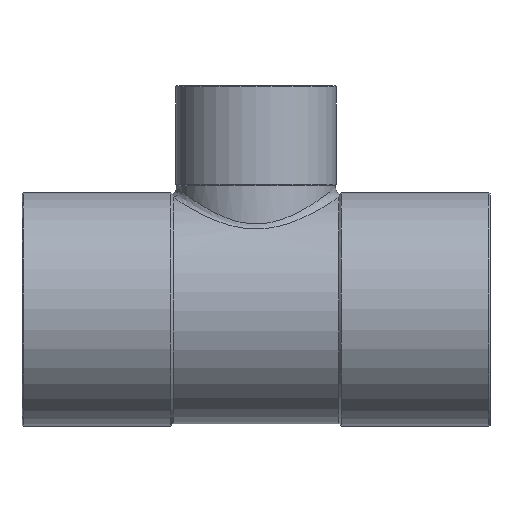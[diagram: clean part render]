
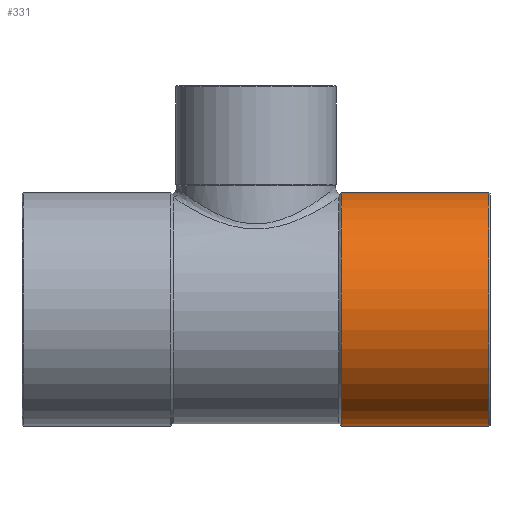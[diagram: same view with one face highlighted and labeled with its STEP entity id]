
A CAD part, top view. The second image highlights one B-rep face of the part: STEP entity #331.
In plain terms, the highlighted cylindrical face has radius 22.475 mm (diameter 44.95 mm), a partial arc.
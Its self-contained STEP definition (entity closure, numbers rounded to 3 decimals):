
#290=CARTESIAN_POINT('',(30.71,0.0,0.0));
#291=DIRECTION('',(1.0,0.0,0.0));
#292=DIRECTION('',(0.0,1.0,0.0));
#293=AXIS2_PLACEMENT_3D('',#290,#291,#292);
#294=CYLINDRICAL_SURFACE('',#293,22.475);
#295=CARTESIAN_POINT('',(16.42,22.475,0.0));
#296=VERTEX_POINT('',#295);
#297=CARTESIAN_POINT('',(44.8,22.475,0.));
#298=VERTEX_POINT('',#297);
#299=CARTESIAN_POINT('',(16.42,22.475,0.0));
#300=DIRECTION('',(1.0,0.0,0.0));
#301=VECTOR('',#300,28.38);
#302=LINE('',#299,#301);
#303=EDGE_CURVE('',#296,#298,#302,.T.);
#304=ORIENTED_EDGE('',*,*,#303,.F.);
#305=CARTESIAN_POINT('',(16.42,-22.475,0.));
#306=VERTEX_POINT('',#305);
#307=CARTESIAN_POINT('',(16.42,0.0,0.0));
#308=DIRECTION('',(1.0,0.0,0.0));
#309=DIRECTION('',(0.0,1.0,0.0));
#310=AXIS2_PLACEMENT_3D('',#307,#308,#309);
#311=CIRCLE('',#310,22.475);
#312=EDGE_CURVE('',#296,#306,#311,.T.);
#313=ORIENTED_EDGE('',*,*,#312,.T.);
#314=CARTESIAN_POINT('',(44.8,-22.475,0.));
#315=VERTEX_POINT('',#314);
#316=CARTESIAN_POINT('',(44.8,-22.475,0.));
#317=DIRECTION('',(-1.0,0.0,0.0));
#318=VECTOR('',#317,28.38);
#319=LINE('',#316,#318);
#320=EDGE_CURVE('',#315,#306,#319,.T.);
#321=ORIENTED_EDGE('',*,*,#320,.F.);
#322=CARTESIAN_POINT('',(44.8,0.0,0.0));
#323=DIRECTION('',(1.0,0.0,0.0));
#324=DIRECTION('',(0.0,-1.0,0.0));
#325=AXIS2_PLACEMENT_3D('',#322,#323,#324);
#326=CIRCLE('',#325,22.475);
#327=EDGE_CURVE('',#298,#315,#326,.T.);
#328=ORIENTED_EDGE('',*,*,#327,.F.);
#329=EDGE_LOOP('',(#304,#313,#321,#328));
#330=FACE_OUTER_BOUND('',#329,.T.);
#331=ADVANCED_FACE('',(#330),#294,.T.);
